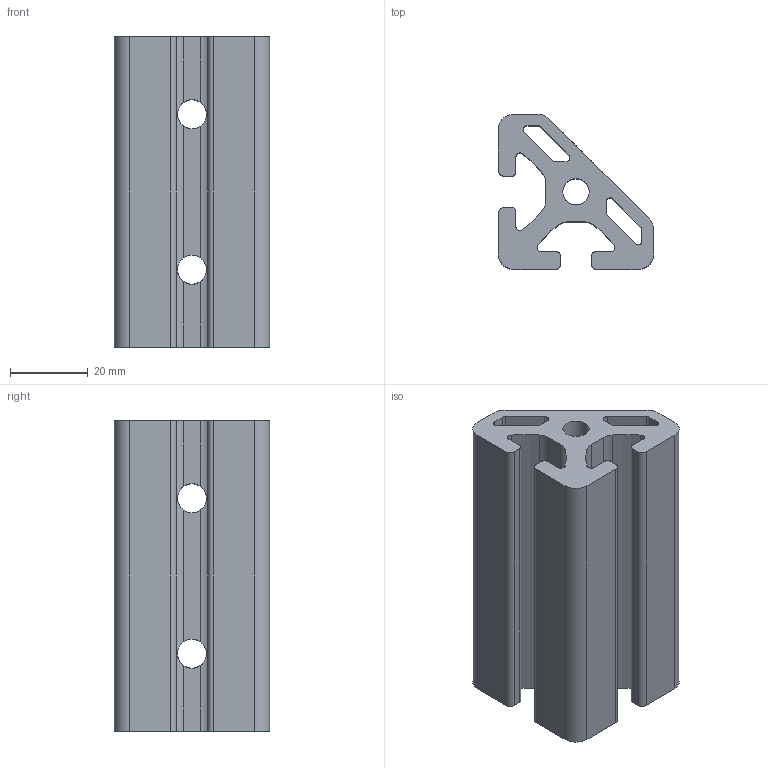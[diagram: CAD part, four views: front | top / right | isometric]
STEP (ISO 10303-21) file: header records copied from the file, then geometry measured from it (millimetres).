
FILE_DESCRIPTION (( 'STEP AP214' ), '1' );
FILE_NAME ('10613_WIN1408045.STEP', '2016-11-29T10:44:38', ( '' ), ( '' ), 'SwSTEP 2.0', 'SolidWorks 2016', '' );
FILE_SCHEMA (( 'AUTOMOTIVE_DESIGN' ));
Length unit declared in the file: millimetre
Products named in the file (1): 10613_WIN1408045
Bounding box: 40 x 40 x 80 mm (x, y, z)
Volume: 56785 mm3; surface area: 26022.9 mm2
Topology: 1 solids, 1 shells, 106 faces, 360 edges, 234 vertices
Faces by surface type: cylinder 71, plane 31, cone 4
Entity records: 4760 total; most frequent: CARTESIAN_POINT 1625, ORIENTED_EDGE 712, DIRECTION 584, EDGE_CURVE 356, VERTEX_POINT 234, AXIS2_PLACEMENT_3D 209, VECTOR 166, LINE 166
